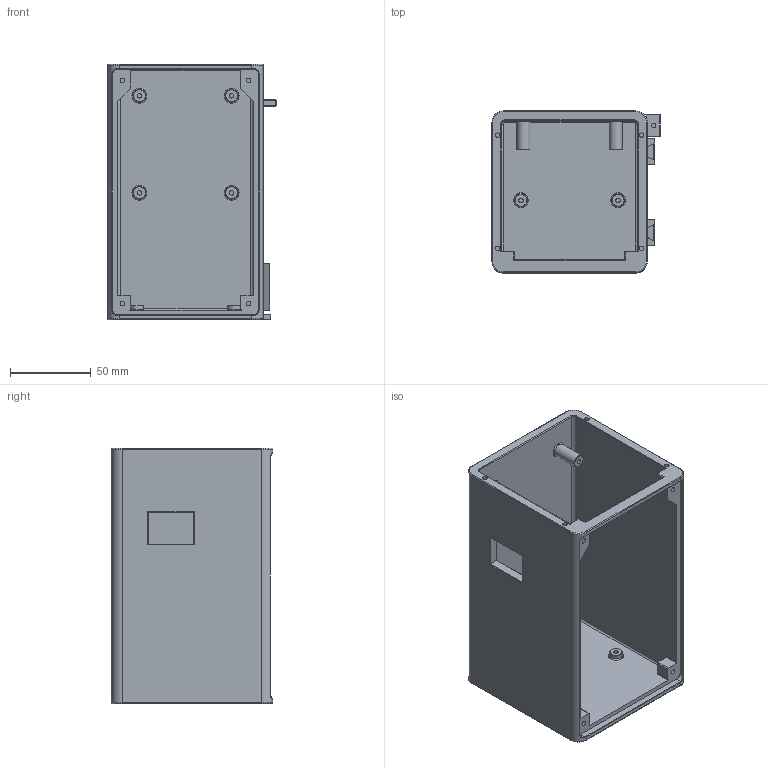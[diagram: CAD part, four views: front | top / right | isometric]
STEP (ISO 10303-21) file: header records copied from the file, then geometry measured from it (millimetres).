
FILE_DESCRIPTION(('Open CASCADE Model'),'2;1');
FILE_NAME('Open CASCADE Shape Model','2026-09-13T14:17:57',('Author'),( 'Open CASCADE'),'Open CASCADE STEP processor 7.9','Open CASCADE 7.9' ,'Unknown');
FILE_SCHEMA(('AUTOMOTIVE_DESIGN { 1 0 10303 214 1 1 1 1 }'));
Length unit declared in the file: millimetre
Products named in the file (1): Open CASCADE STEP translator 7.9 1
Bounding box: 104 x 100 x 158 mm (x, y, z)
Volume: 314756.3 mm3; surface area: 113229.5 mm2
Topology: 1 solids, 1 shells, 192 faces, 439 edges, 268 vertices
Faces by surface type: plane 100, cylinder 60, torus 22, cone 6, bspline 4
Full cylindrical faces by diameter (mm): 2.8 x15, 8 x6
Entity records: 12576 total; most frequent: CARTESIAN_POINT 3713, DIRECTION 1653, LINE 896, VECTOR 896, ORIENTED_EDGE 878, PCURVE 878, DEFINITIONAL_REPRESENTATION 878, EDGE_CURVE 439
